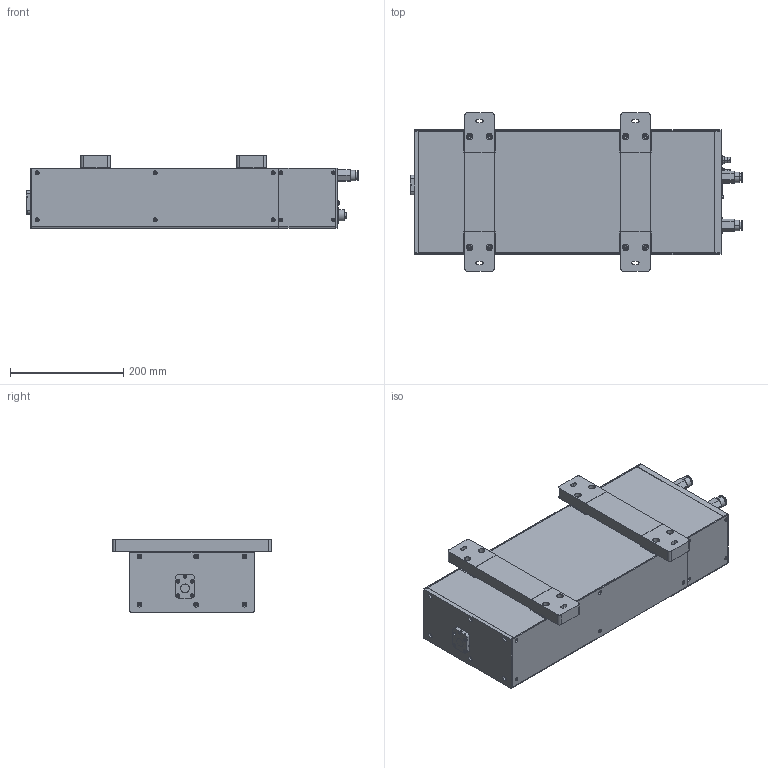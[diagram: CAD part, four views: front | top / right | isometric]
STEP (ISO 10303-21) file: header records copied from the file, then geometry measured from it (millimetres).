
FILE_DESCRIPTION (( 'STEP AP203' ), '1' );
FILE_NAME ('30W俋倛-酗.STEP', '2025-04-11T09:48:35', ( '' ), ( '' ), 'SwSTEP 2.0', 'SolidWorks 2016', '' );
FILE_SCHEMA (( 'CONFIG_CONTROL_DESIGN' ));
Products named in the file (1): 30W俋倛-酗
Bounding box: 585.36 x 280 x 128.25 mm (x, y, z)
Volume: 11883039.1 mm3; surface area: 1305441.3 mm2
Topology: 35 solids, 42 shells, 2763 faces, 6975 edges, 4445 vertices
Faces by surface type: plane 1042, cylinder 1000, bspline 426, cone 261, torus 20, sphere 14
Entity records: 102855 total; most frequent: CARTESIAN_POINT 37938, ORIENTED_EDGE 13582, DIRECTION 12714, EDGE_CURVE 6791, AXIS2_PLACEMENT_3D 4489, VERTEX_POINT 4437, VECTOR 3736, LINE 3736
